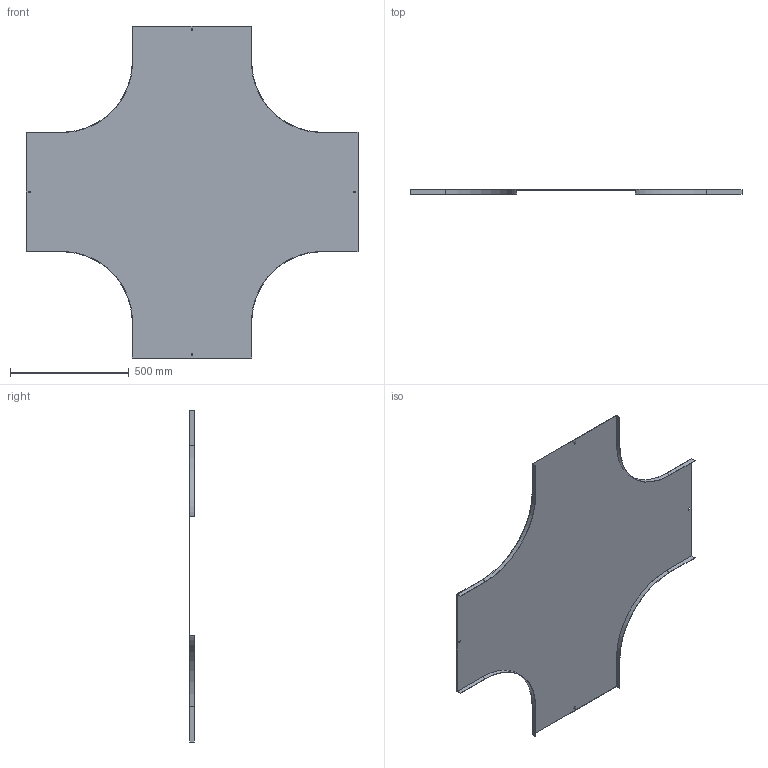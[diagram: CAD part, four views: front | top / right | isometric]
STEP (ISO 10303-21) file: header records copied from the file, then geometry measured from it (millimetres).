
FILE_DESCRIPTION (( 'STEP AP214' ), '1' );
FILE_NAME ('A2_17N3R500.step', '2025-02-21T12:08:17', ( '' ), ( '' ), 'SwSTEP 2.0', 'SolidWorks 2023', '' );
FILE_SCHEMA (( 'AUTOMOTIVE_DESIGN' ));
Length unit declared in the file: millimetre
Products named in the file (1): A2_17N3R500
Bounding box: 1400 x 20 x 1400 mm (x, y, z)
Volume: 1932941.3 mm3; surface area: 2585294.3 mm2
Topology: 1 solids, 1 shells, 50 faces, 144 edges, 96 vertices
Faces by surface type: plane 42, cylinder 8
Entity records: 1663 total; most frequent: CARTESIAN_POINT 291, ORIENTED_EDGE 288, DIRECTION 262, EDGE_CURVE 144, LINE 128, VECTOR 128, VERTEX_POINT 96, AXIS2_PLACEMENT_3D 67
